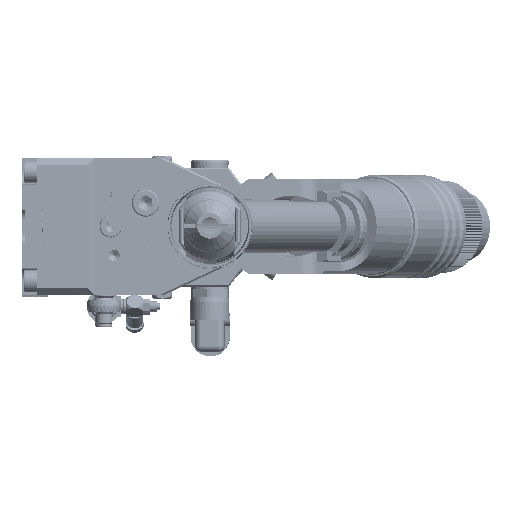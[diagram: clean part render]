
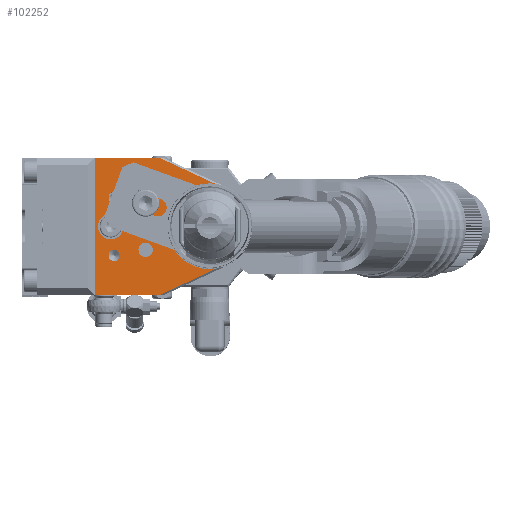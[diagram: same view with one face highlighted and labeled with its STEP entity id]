
A CAD part, top view. The second image highlights one B-rep face of the part: STEP entity #102252.
In plain terms, the highlighted planar face has unit normal (0, 0, 1).
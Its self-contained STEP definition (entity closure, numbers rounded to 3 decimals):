
#4229=FACE_BOUND('',#17379,.T.);
#4230=FACE_BOUND('',#17380,.T.);
#4231=FACE_BOUND('',#17381,.T.);
#4232=FACE_BOUND('',#17382,.T.);
#4233=FACE_BOUND('',#17383,.T.);
#4234=FACE_BOUND('',#17384,.T.);
#4235=FACE_BOUND('',#17385,.T.);
#5916=PLANE('',#109316);
#11596=FACE_OUTER_BOUND('',#17378,.T.);
#17378=EDGE_LOOP('',(#79512,#79513,#79514,#79515,#79516,#79517));
#17379=EDGE_LOOP('',(#79518,#79519));
#17380=EDGE_LOOP('',(#79520,#79521));
#17381=EDGE_LOOP('',(#79522,#79523));
#17382=EDGE_LOOP('',(#79524));
#17383=EDGE_LOOP('',(#79525));
#17384=EDGE_LOOP('',(#79526,#79527));
#17385=EDGE_LOOP('',(#79528));
#23870=LINE('',#316298,#31328);
#23871=LINE('',#316302,#31329);
#23872=LINE('',#316304,#31330);
#23873=LINE('',#316306,#31331);
#23874=LINE('',#316307,#31332);
#31328=VECTOR('',#126035,10.);
#31329=VECTOR('',#126038,10.);
#31330=VECTOR('',#126039,10.);
#31331=VECTOR('',#126040,10.);
#31332=VECTOR('',#126041,10.);
#37423=CIRCLE('',#109315,17.);
#37424=CIRCLE('',#109317,24.);
#37425=CIRCLE('',#109318,3.324);
#37426=CIRCLE('',#109319,3.324);
#37427=CIRCLE('',#109320,4.188);
#37428=CIRCLE('',#109321,4.188);
#37429=CIRCLE('',#109322,7.5);
#37430=CIRCLE('',#109323,7.5);
#37431=CIRCLE('',#109324,3.324);
#37432=CIRCLE('',#109325,3.324);
#37433=CIRCLE('',#109326,4.188);
#37434=CIRCLE('',#109327,4.188);
#44913=VERTEX_POINT('',#316292);
#44914=VERTEX_POINT('',#316296);
#44915=VERTEX_POINT('',#316297);
#44916=VERTEX_POINT('',#316299);
#44917=VERTEX_POINT('',#316301);
#44918=VERTEX_POINT('',#316303);
#44919=VERTEX_POINT('',#316305);
#44920=VERTEX_POINT('',#316308);
#44921=VERTEX_POINT('',#316309);
#44922=VERTEX_POINT('',#316312);
#44923=VERTEX_POINT('',#316313);
#44924=VERTEX_POINT('',#316316);
#44925=VERTEX_POINT('',#316317);
#44926=VERTEX_POINT('',#316320);
#44927=VERTEX_POINT('',#316322);
#44928=VERTEX_POINT('',#316324);
#44929=VERTEX_POINT('',#316325);
#57273=EDGE_CURVE('',#44913,#44913,#37423,.T.);
#57275=EDGE_CURVE('',#44914,#44915,#23870,.T.);
#57276=EDGE_CURVE('',#44916,#44914,#37424,.T.);
#57277=EDGE_CURVE('',#44917,#44916,#23871,.T.);
#57278=EDGE_CURVE('',#44918,#44917,#23872,.T.);
#57279=EDGE_CURVE('',#44918,#44919,#23873,.T.);
#57280=EDGE_CURVE('',#44915,#44919,#23874,.T.);
#57281=EDGE_CURVE('',#44920,#44921,#37425,.T.);
#57282=EDGE_CURVE('',#44921,#44920,#37426,.T.);
#57283=EDGE_CURVE('',#44922,#44923,#37427,.T.);
#57284=EDGE_CURVE('',#44923,#44922,#37428,.T.);
#57285=EDGE_CURVE('',#44924,#44925,#37429,.T.);
#57286=EDGE_CURVE('',#44925,#44924,#37430,.T.);
#57287=EDGE_CURVE('',#44926,#44926,#37431,.T.);
#57288=EDGE_CURVE('',#44927,#44927,#37432,.T.);
#57289=EDGE_CURVE('',#44928,#44929,#37433,.T.);
#57290=EDGE_CURVE('',#44929,#44928,#37434,.T.);
#79512=ORIENTED_EDGE('',*,*,#57275,.F.);
#79513=ORIENTED_EDGE('',*,*,#57276,.F.);
#79514=ORIENTED_EDGE('',*,*,#57277,.F.);
#79515=ORIENTED_EDGE('',*,*,#57278,.F.);
#79516=ORIENTED_EDGE('',*,*,#57279,.T.);
#79517=ORIENTED_EDGE('',*,*,#57280,.F.);
#79518=ORIENTED_EDGE('',*,*,#57281,.T.);
#79519=ORIENTED_EDGE('',*,*,#57282,.T.);
#79520=ORIENTED_EDGE('',*,*,#57283,.T.);
#79521=ORIENTED_EDGE('',*,*,#57284,.T.);
#79522=ORIENTED_EDGE('',*,*,#57285,.T.);
#79523=ORIENTED_EDGE('',*,*,#57286,.T.);
#79524=ORIENTED_EDGE('',*,*,#57287,.T.);
#79525=ORIENTED_EDGE('',*,*,#57288,.T.);
#79526=ORIENTED_EDGE('',*,*,#57289,.T.);
#79527=ORIENTED_EDGE('',*,*,#57290,.T.);
#79528=ORIENTED_EDGE('',*,*,#57273,.F.);
#102252=ADVANCED_FACE('',(#11596,#4229,#4230,#4231,#4232,#4233,#4234,#4235),
#5916,.F.);
#109315=AXIS2_PLACEMENT_3D('',#316293,#126030,#126031);
#109316=AXIS2_PLACEMENT_3D('',#316295,#126033,#126034);
#109317=AXIS2_PLACEMENT_3D('',#316300,#126036,#126037);
#109318=AXIS2_PLACEMENT_3D('',#316310,#126042,#126043);
#109319=AXIS2_PLACEMENT_3D('',#316311,#126044,#126045);
#109320=AXIS2_PLACEMENT_3D('',#316314,#126046,#126047);
#109321=AXIS2_PLACEMENT_3D('',#316315,#126048,#126049);
#109322=AXIS2_PLACEMENT_3D('',#316318,#126050,#126051);
#109323=AXIS2_PLACEMENT_3D('',#316319,#126052,#126053);
#109324=AXIS2_PLACEMENT_3D('',#316321,#126054,#126055);
#109325=AXIS2_PLACEMENT_3D('',#316323,#126056,#126057);
#109326=AXIS2_PLACEMENT_3D('',#316326,#126058,#126059);
#109327=AXIS2_PLACEMENT_3D('',#316327,#126060,#126061);
#126030=DIRECTION('center_axis',(0.,0.,
1.));
#126031=DIRECTION('ref_axis',(-1.,0.,0.));
#126033=DIRECTION('center_axis',(0.,0.,
-1.));
#126034=DIRECTION('ref_axis',(-1.,0.,0.));
#126035=DIRECTION('',(-0.906,-0.423,0.));
#126036=DIRECTION('center_axis',(0.,0.,
-1.));
#126037=DIRECTION('ref_axis',(0.423,-0.906,0.));
#126038=DIRECTION('',(0.906,-0.423,0.));
#126039=DIRECTION('',(1.,0.,0.));
#126040=DIRECTION('',(0.,-1.,0.));
#126041=DIRECTION('',(-1.,0.,0.));
#126042=DIRECTION('center_axis',(0.,0.,
-1.));
#126043=DIRECTION('ref_axis',(1.,0.,0.));
#126044=DIRECTION('center_axis',(0.,0.,
-1.));
#126045=DIRECTION('ref_axis',(1.,0.,0.));
#126046=DIRECTION('center_axis',(0.,0.,
-1.));
#126047=DIRECTION('ref_axis',(1.,0.,0.));
#126048=DIRECTION('center_axis',(0.,0.,
-1.));
#126049=DIRECTION('ref_axis',(1.,0.,0.));
#126050=DIRECTION('center_axis',(0.,0.,
-1.));
#126051=DIRECTION('ref_axis',(1.,0.,0.));
#126052=DIRECTION('center_axis',(0.,0.,
-1.));
#126053=DIRECTION('ref_axis',(1.,0.,0.));
#126054=DIRECTION('center_axis',(0.,0.,
-1.));
#126055=DIRECTION('ref_axis',(-1.,0.,0.));
#126056=DIRECTION('center_axis',(0.,0.,
-1.));
#126057=DIRECTION('ref_axis',(-1.,0.,0.));
#126058=DIRECTION('center_axis',(0.,0.,
-1.));
#126059=DIRECTION('ref_axis',(1.,0.,0.));
#126060=DIRECTION('center_axis',(0.,0.,
-1.));
#126061=DIRECTION('ref_axis',(1.,0.,0.));
#316292=CARTESIAN_POINT('',(130.,0.,590.));
#316293=CARTESIAN_POINT('Origin',(113.,0.,
590.));
#316295=CARTESIAN_POINT('Origin',(76.493,0.,
590.));
#316296=CARTESIAN_POINT('',(123.143,-21.751,590.));
#316297=CARTESIAN_POINT('',(84.009,-40.,590.));
#316298=CARTESIAN_POINT('',(89.554,-37.414,590.));
#316299=CARTESIAN_POINT('',(123.143,21.751,590.));
#316300=CARTESIAN_POINT('Origin',(113.,0.,
590.));
#316301=CARTESIAN_POINT('',(84.009,40.,590.));
#316302=CARTESIAN_POINT('',(108.149,28.743,590.));
#316303=CARTESIAN_POINT('',(45.5,40.,590.));
#316304=CARTESIAN_POINT('',(18.,40.,590.));
#316305=CARTESIAN_POINT('',(45.5,-40.,590.));
#316306=CARTESIAN_POINT('',(45.5,-20.,590.));
#316307=CARTESIAN_POINT('',(130.,-40.,590.));
#316308=CARTESIAN_POINT('',(84.324,0.,590.));
#316309=CARTESIAN_POINT('',(77.677,0.,590.));
#316310=CARTESIAN_POINT('Origin',(81.,0.,
590.));
#316311=CARTESIAN_POINT('Origin',(81.,0.,
590.));
#316312=CARTESIAN_POINT('',(79.6,-13.681,590.));
#316313=CARTESIAN_POINT('',(71.224,-13.681,590.));
#316314=CARTESIAN_POINT('Origin',(75.412,-13.681,590.));
#316315=CARTESIAN_POINT('Origin',(75.412,-13.681,590.));
#316316=CARTESIAN_POINT('',(62.5,0.,590.));
#316317=CARTESIAN_POINT('',(47.5,0.,590.));
#316318=CARTESIAN_POINT('Origin',(55.,0.,
590.));
#316319=CARTESIAN_POINT('Origin',(55.,0.,
590.));
#316320=CARTESIAN_POINT('',(60.324,17.,590.));
#316321=CARTESIAN_POINT('Origin',(57.,17.,590.));
#316322=CARTESIAN_POINT('',(60.324,-17.,590.));
#316323=CARTESIAN_POINT('Origin',(57.,-17.,590.));
#316324=CARTESIAN_POINT('',(79.6,13.681,590.));
#316325=CARTESIAN_POINT('',(71.224,13.681,590.));
#316326=CARTESIAN_POINT('Origin',(75.412,13.681,590.));
#316327=CARTESIAN_POINT('Origin',(75.412,13.681,590.));
